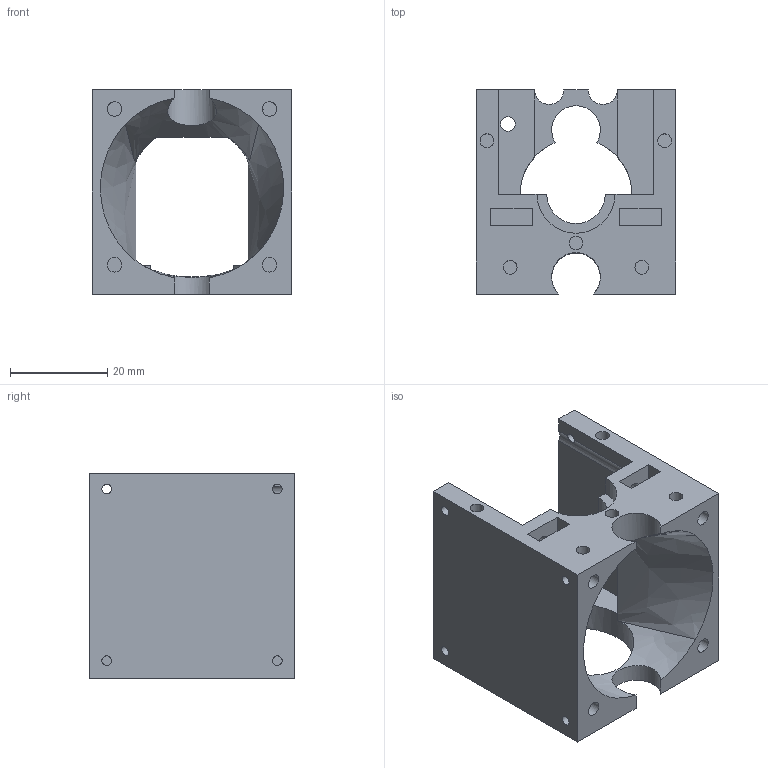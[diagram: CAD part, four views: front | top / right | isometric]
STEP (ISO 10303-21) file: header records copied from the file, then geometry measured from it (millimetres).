
FILE_DESCRIPTION(/* description */ (''),/* implementation_level */ '2;1');
FILE_NAME(/* name */ 'F:/3d-printing/_sr/# Mods/E3D Hotend Mount v41.step',/* time_stamp */ '2021-08-11T10:36:03+02:00',/* author */ (''),/* organization */ (''),/* preprocessor_version */ 'ST-DEVELOPER v18.1',/* originating_system */ 'Autodesk Translation Framework v10.9.0.1377',/* authorisation */ '');
FILE_SCHEMA (('AUTOMOTIVE_DESIGN { 1 0 10303 214 3 1 1 }'));
Length unit declared in the file: millimetre
Products named in the file (1): E3D Hotend Mount
Bounding box: 41 x 42 x 42 mm (x, y, z)
Volume: 25096.2 mm3; surface area: 13138 mm2
Topology: 1 solids, 1 shells, 111 faces, 277 edges, 180 vertices
Faces by surface type: plane 56, cylinder 43, bspline 10, cone 2
Full cylindrical faces by diameter (mm): 2 x8, 2.8 x11, 3 x10
Entity records: 3891 total; most frequent: CARTESIAN_POINT 1224, ORIENTED_EDGE 546, DIRECTION 525, EDGE_CURVE 273, AXIS2_PLACEMENT_3D 189, VERTEX_POINT 178, LINE 147, VECTOR 147
